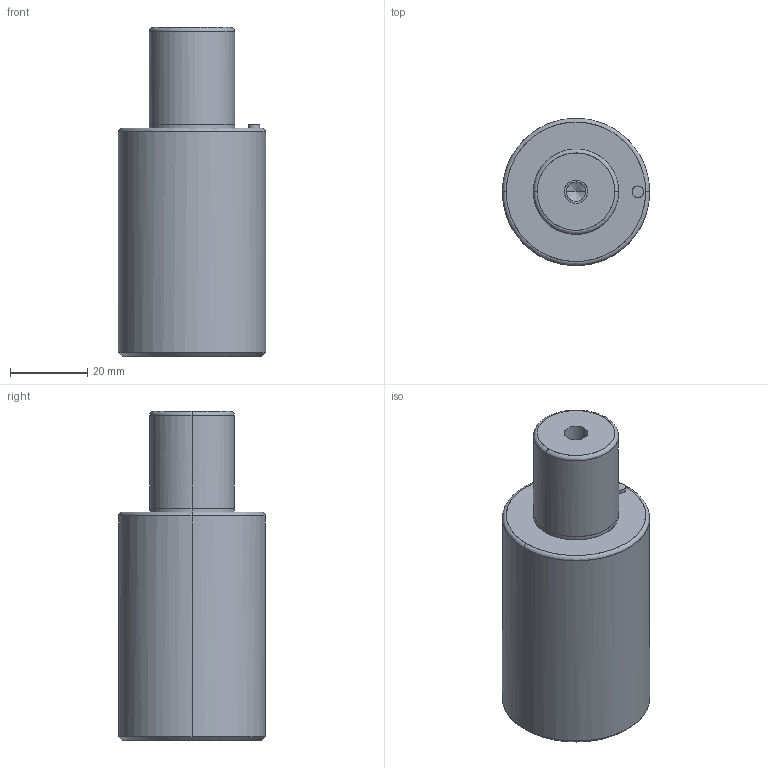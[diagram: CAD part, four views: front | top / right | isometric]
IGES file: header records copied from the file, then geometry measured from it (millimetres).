
Global section: file name: E:\UnigraphicsGraphicData\MISUMI_PRESS-PARTS\IGES\3d_gsc38-25_03845_r00.igs; native system: NX V5.0; preprocessor: UGS NX IGES V5.0; author: MISUMI; date: 20110105.160747; units: millimetre
Bounding box: 38 x 37.92 x 85 mm (x, y, z)
Surface area: 11558.7 mm2 (no closed solid volume)
Topology: 0 solids, 0 shells, 32 faces, 216 edges, 212 vertices
Faces by surface type: bspline 32
